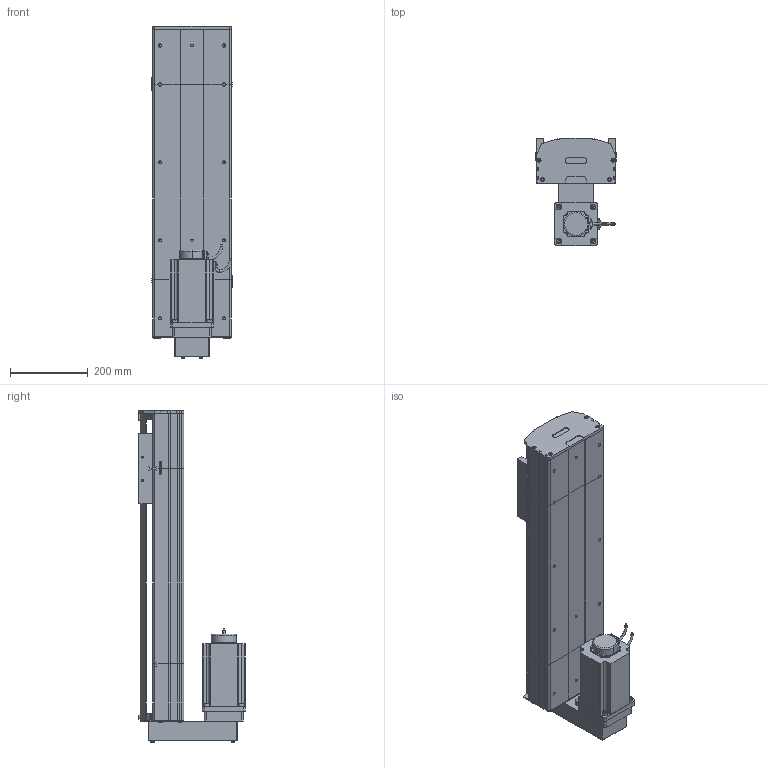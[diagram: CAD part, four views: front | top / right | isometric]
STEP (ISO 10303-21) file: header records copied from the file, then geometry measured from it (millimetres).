
FILE_DESCRIPTION (( 'STEP AP214' ), '1' );
FILE_NAME ('D20 TSH BM S500.STEP', '2010-06-30T08:31:30', ( 'Conseil Régional Haute-Normandie' ), ( 'Conseil Régional Haute-Normandie' ), 'SwSTEP 2.0', 'SolidWorks 2010', '' );
FILE_SCHEMA (( 'AUTOMOTIVE_DESIGN' ));
Length unit declared in the file: millimetre
Products named in the file (35): couvercle head l D20_Default; 2 vis M5 L12_Default; Arbre+rail head D20; vis M5 L25_Default; tail D20 +100_Default; avant 110BLDC170A-630x; codeur 110BLDC170A-630x; vis M5 L70_Default; renvoi  BM_Default; clavette; vis M8 L12_Default; Arbre+rail tail D20; tete d''axe haut D20; vis M5 L8 90°_Default; corps 110BLDC170A-630x; Conecteur_Default; Conecteur2_Default; couvercle tail D20_Default; plaque de  bout tail D20_Default; Plaque racord D20_Default; Moteur motionking 110BLDC170A-640x; tete d''axe bas D20; corpl tail D20 +100_Default; vis M5 L12_Default; guide D20; Chariot D20; chariot D20S_Default; plaque de  bout head BR D20_Default; corpl head MD D20_Default; course D20 L500_Default; D20 TSH BM S500; head BM D20_Default; couvercle D20 S500_Default; rail + arbre  D20 S500; corp D20 S500_Default
Assembly tree (59 placements, depth 4):
  D20 TSH BM S500
    chariot D20S_Default
      vis M5 L12_Default  x4
      guide D20  x2
      Chariot D20
    tail D20 +100_Default
      vis M5 L25_Default  x2
      2 vis M5 L12_Default  x4
      vis M5 L8 90°_Default  x2
      corpl tail D20 +100_Default
      tete d''axe haut D20
      plaque de  bout tail D20_Default
      tete d''axe bas D20
      couvercle tail D20_Default
      Arbre+rail tail D20
    head BM D20_Default
      couvercle head l D20_Default
      plaque de  bout head BR D20_Default
      renvoi  BM_Default
      vis M5 L12_Default  x2
      2 vis M5 L12_Default  x6
      Arbre+rail head D20
      vis M5 L25_Default  x2
      vis M5 L70_Default  x4
      vis M8 L12_Default  x4
      corpl head MD D20_Default
      Moteur motionking 110BLDC170A-640x
        Conecteur2_Default
        clavette
        corps 110BLDC170A-630x
        codeur 110BLDC170A-630x
        avant 110BLDC170A-630x
        Conecteur_Default
      Plaque racord D20_Default
    course D20 L500_Default
      corp D20 S500_Default
      rail + arbre  D20 S500
      couvercle D20 S500_Default
Bounding box: 206 x 273.7 x 851.7 mm (x, y, z)
Volume: 9676098 mm3; surface area: 1925360.6 mm2
Topology: 84 solids, 84 shells, 2306 faces, 5768 edges, 3723 vertices
Faces by surface type: plane 1386, cylinder 632, bspline 136, torus 77, cone 71, sphere 4
Entity records: 74487 total; most frequent: CARTESIAN_POINT 24231, ORIENTED_EDGE 8832, DIRECTION 8339, EDGE_CURVE 4416, LINE 2937, VECTOR 2937, VERTEX_POINT 2905, AXIS2_PLACEMENT_3D 2701
